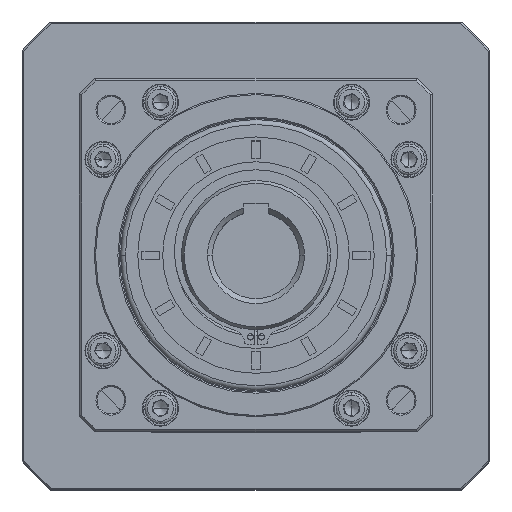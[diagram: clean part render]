
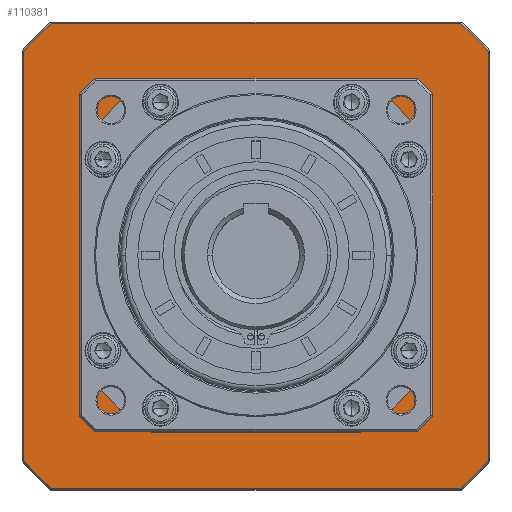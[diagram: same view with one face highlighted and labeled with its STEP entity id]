
A CAD part, top view. The second image highlights one B-rep face of the part: STEP entity #110381.
In plain terms, the highlighted planar face has unit normal (0, 0, 1).
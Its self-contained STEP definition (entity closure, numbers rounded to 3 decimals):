
#193 = CARTESIAN_POINT ( 'NONE',  ( 179.548, 121.721, -9.295 ) ) ;
#2115 = AXIS2_PLACEMENT_3D ( 'NONE', #82307, #55095, #56615 ) ;
#3781 = ORIENTED_EDGE ( 'NONE', *, *, #91855, .F. ) ;
#4524 = FACE_OUTER_BOUND ( 'NONE', #86171, .T. ) ;
#4692 = CIRCLE ( 'NONE', #45630, 124.5 ) ;
#5166 = VECTOR ( 'NONE', #100940, 1000. ) ;
#5359 = VECTOR ( 'NONE', #30723, 1000. ) ;
#5605 = DIRECTION ( 'NONE',  ( 0., -1., 0. ) ) ;
#5616 = ORIENTED_EDGE ( 'NONE', *, *, #103112, .F. ) ;
#5853 = ORIENTED_EDGE ( 'NONE', *, *, #78291, .F. ) ;
#5893 = AXIS2_PLACEMENT_3D ( 'NONE', #103623, #50423, #102828 ) ;
#6733 = CARTESIAN_POINT ( 'NONE',  ( 97.341, 215.221, -9.295 ) ) ;
#7865 = CARTESIAN_POINT ( 'NONE',  ( 179.548, 121.721, -9.295 ) ) ;
#10114 = CARTESIAN_POINT ( 'NONE',  ( 179.548, 51.221, -9.295 ) ) ;
#10225 = VECTOR ( 'NONE', #10706, 1000. ) ;
#10706 = DIRECTION ( 'NONE',  ( 0., -1., 0. ) ) ;
#11882 = VERTEX_POINT ( 'NONE', #86889 ) ;
#12193 = ORIENTED_EDGE ( 'NONE', *, *, #56513, .F. ) ;
#13235 = CARTESIAN_POINT ( 'NONE',  ( 179.548, 192.221, -9.295 ) ) ;
#13839 = VERTEX_POINT ( 'NONE', #73659 ) ;
#14469 = CARTESIAN_POINT ( 'NONE',  ( 86.048, 39.514, -9.295 ) ) ;
#14545 = CARTESIAN_POINT ( 'NONE',  ( 179.548, 121.721, -9.295 ) ) ;
#14919 = DIRECTION ( 'NONE',  ( 1., 0., 0. ) ) ;
#14957 = CARTESIAN_POINT ( 'NONE',  ( 137.67, 51.221, -9.295 ) ) ;
#16157 = ORIENTED_EDGE ( 'NONE', *, *, #90271, .F. ) ;
#16559 = AXIS2_PLACEMENT_3D ( 'NONE', #193, #69805, #26220 ) ;
#16740 = ORIENTED_EDGE ( 'NONE', *, *, #90536, .F. ) ;
#17130 = AXIS2_PLACEMENT_3D ( 'NONE', #14545, #112334, #14919 ) ;
#17419 = DIRECTION ( 'NONE',  ( -1., 0., 0. ) ) ;
#17679 = VERTEX_POINT ( 'NONE', #71664 ) ;
#18058 = CIRCLE ( 'NONE', #77883, 82. ) ;
#19342 = CARTESIAN_POINT ( 'NONE',  ( 273.048, 39.514, -9.295 ) ) ;
#21730 = LINE ( 'NONE', #10114, #27372 ) ;
#22720 = CARTESIAN_POINT ( 'NONE',  ( 179.548, 121.721, -9.295 ) ) ;
#23009 = CARTESIAN_POINT ( 'NONE',  ( 97.341, 28.221, -9.295 ) ) ;
#23233 = VECTOR ( 'NONE', #17419, 1000. ) ;
#24249 = LINE ( 'NONE', #114522, #25369 ) ;
#24636 = VERTEX_POINT ( 'NONE', #19342 ) ;
#24855 = DIRECTION ( 'NONE',  ( 1., 0., 0. ) ) ;
#25369 = VECTOR ( 'NONE', #24855, 1000. ) ;
#26220 = DIRECTION ( 'NONE',  ( -1., 0., 0. ) ) ;
#26272 = VERTEX_POINT ( 'NONE', #110487 ) ;
#27372 = VECTOR ( 'NONE', #114924, 1000. ) ;
#28105 = DIRECTION ( 'NONE',  ( 0., 0., 1. ) ) ;
#29111 = VERTEX_POINT ( 'NONE', #62173 ) ;
#29680 = ORIENTED_EDGE ( 'NONE', *, *, #71176, .F. ) ;
#30723 = DIRECTION ( 'NONE',  ( -1., 0., 0. ) ) ;
#30892 = VERTEX_POINT ( 'NONE', #65943 ) ;
#31829 = LINE ( 'NONE', #13235, #5359 ) ;
#32061 = VERTEX_POINT ( 'NONE', #6733 ) ;
#32322 = FACE_BOUND ( 'NONE', #63230, .T. ) ;
#33279 = AXIS2_PLACEMENT_3D ( 'NONE', #7865, #87545, #52582 ) ;
#34518 = DIRECTION ( 'NONE',  ( 1., 0., 0. ) ) ;
#35613 = PLANE ( 'NONE',  #16559 ) ;
#35798 = LINE ( 'NONE', #107328, #78891 ) ;
#38623 = CARTESIAN_POINT ( 'NONE',  ( 250.048, 79.844, -9.295 ) ) ;
#39279 = CIRCLE ( 'NONE', #58466, 82. ) ;
#40339 = ORIENTED_EDGE ( 'NONE', *, *, #52409, .F. ) ;
#40522 = ORIENTED_EDGE ( 'NONE', *, *, #112243, .F. ) ;
#40605 = VECTOR ( 'NONE', #5605, 1000. ) ;
#43230 = AXIS2_PLACEMENT_3D ( 'NONE', #22720, #74756, #66164 ) ;
#44586 = CIRCLE ( 'NONE', #17130, 82. ) ;
#44895 = VERTEX_POINT ( 'NONE', #94279 ) ;
#45027 = LINE ( 'NONE', #62481, #10225 ) ;
#45159 = EDGE_CURVE ( 'NONE', #11882, #49802, #46910, .T. ) ;
#45630 = AXIS2_PLACEMENT_3D ( 'NONE', #73437, #80865, #98640 ) ;
#46387 = ORIENTED_EDGE ( 'NONE', *, *, #83845, .F. ) ;
#46910 = LINE ( 'NONE', #79992, #23233 ) ;
#47662 = CARTESIAN_POINT ( 'NONE',  ( 86.048, 203.928, -9.295 ) ) ;
#49802 = VERTEX_POINT ( 'NONE', #23009 ) ;
#50273 = LINE ( 'NONE', #67456, #40605 ) ;
#50423 = DIRECTION ( 'NONE',  ( 0., 0., -1. ) ) ;
#52409 = EDGE_CURVE ( 'NONE', #32061, #17679, #24249, .T. ) ;
#52582 = DIRECTION ( 'NONE',  ( 1., 0., 0. ) ) ;
#53037 = CARTESIAN_POINT ( 'NONE',  ( 109.048, 163.599, -9.295 ) ) ;
#53121 = CIRCLE ( 'NONE', #5893, 124.5 ) ;
#54316 = VERTEX_POINT ( 'NONE', #14957 ) ;
#55095 = DIRECTION ( 'NONE',  ( 0., 0., -1. ) ) ;
#55943 = CARTESIAN_POINT ( 'NONE',  ( 250.048, 121.721, -9.295 ) ) ;
#56513 = EDGE_CURVE ( 'NONE', #96151, #32061, #91138, .T. ) ;
#56615 = DIRECTION ( 'NONE',  ( 0., 1., 0. ) ) ;
#57838 = DIRECTION ( 'NONE',  ( 0., 0., 1. ) ) ;
#58466 = AXIS2_PLACEMENT_3D ( 'NONE', #82135, #28105, #65000 ) ;
#62173 = CARTESIAN_POINT ( 'NONE',  ( 273.048, 203.928, -9.295 ) ) ;
#62481 = CARTESIAN_POINT ( 'NONE',  ( 273.048, 121.721, -9.295 ) ) ;
#62581 = CARTESIAN_POINT ( 'NONE',  ( 221.426, 192.221, -9.295 ) ) ;
#63230 = EDGE_LOOP ( 'NONE', ( #107236, #71113, #5853, #16157, #40522, #105877, #72527, #105791 ) ) ;
#65000 = DIRECTION ( 'NONE',  ( 1., 0., 0. ) ) ;
#65557 = VERTEX_POINT ( 'NONE', #53037 ) ;
#65943 = CARTESIAN_POINT ( 'NONE',  ( 109.048, 79.844, -9.295 ) ) ;
#66164 = DIRECTION ( 'NONE',  ( -1., 0., 0. ) ) ;
#67456 = CARTESIAN_POINT ( 'NONE',  ( 109.048, 121.721, -9.295 ) ) ;
#69027 = EDGE_CURVE ( 'NONE', #44895, #100906, #44586, .T. ) ;
#69805 = DIRECTION ( 'NONE',  ( 0., 0., -1. ) ) ;
#71113 = ORIENTED_EDGE ( 'NONE', *, *, #73541, .F. ) ;
#71176 = EDGE_CURVE ( 'NONE', #29111, #24636, #45027, .T. ) ;
#71664 = CARTESIAN_POINT ( 'NONE',  ( 261.755, 215.221, -9.295 ) ) ;
#72527 = ORIENTED_EDGE ( 'NONE', *, *, #77824, .F. ) ;
#73437 = CARTESIAN_POINT ( 'NONE',  ( 179.548, 121.721, -9.295 ) ) ;
#73541 = EDGE_CURVE ( 'NONE', #74116, #44895, #74718, .T. ) ;
#73659 = CARTESIAN_POINT ( 'NONE',  ( 221.426, 51.221, -9.295 ) ) ;
#74116 = VERTEX_POINT ( 'NONE', #38623 ) ;
#74718 = LINE ( 'NONE', #55943, #5166 ) ;
#74756 = DIRECTION ( 'NONE',  ( 0., 0., -1. ) ) ;
#74775 = CIRCLE ( 'NONE', #43230, 124.5 ) ;
#75337 = EDGE_CURVE ( 'NONE', #100906, #26272, #31829, .T. ) ;
#77824 = EDGE_CURVE ( 'NONE', #26272, #65557, #39279, .T. ) ;
#77883 = AXIS2_PLACEMENT_3D ( 'NONE', #104801, #57838, #34518 ) ;
#78291 = EDGE_CURVE ( 'NONE', #13839, #74116, #18058, .T. ) ;
#78891 = VECTOR ( 'NONE', #81769, 1000. ) ;
#79992 = CARTESIAN_POINT ( 'NONE',  ( 179.548, 28.221, -9.295 ) ) ;
#80865 = DIRECTION ( 'NONE',  ( 0., 0., -1. ) ) ;
#81769 = DIRECTION ( 'NONE',  ( 0., 1., 0. ) ) ;
#82135 = CARTESIAN_POINT ( 'NONE',  ( 179.548, 121.721, -9.295 ) ) ;
#82307 = CARTESIAN_POINT ( 'NONE',  ( 179.548, 121.721, -9.295 ) ) ;
#83007 = CIRCLE ( 'NONE', #33279, 82. ) ;
#83845 = EDGE_CURVE ( 'NONE', #99832, #96151, #35798, .T. ) ;
#86171 = EDGE_LOOP ( 'NONE', ( #98474, #16740, #29680, #3781, #40339, #12193, #46387, #5616 ) ) ;
#86889 = CARTESIAN_POINT ( 'NONE',  ( 261.755, 28.221, -9.295 ) ) ;
#87545 = DIRECTION ( 'NONE',  ( 0., 0., 1. ) ) ;
#90271 = EDGE_CURVE ( 'NONE', #54316, #13839, #21730, .T. ) ;
#90536 = EDGE_CURVE ( 'NONE', #24636, #11882, #74775, .T. ) ;
#91138 = CIRCLE ( 'NONE', #2115, 124.5 ) ;
#91855 = EDGE_CURVE ( 'NONE', #17679, #29111, #4692, .T. ) ;
#94279 = CARTESIAN_POINT ( 'NONE',  ( 250.048, 163.599, -9.295 ) ) ;
#96151 = VERTEX_POINT ( 'NONE', #47662 ) ;
#96316 = EDGE_CURVE ( 'NONE', #65557, #30892, #50273, .T. ) ;
#98474 = ORIENTED_EDGE ( 'NONE', *, *, #45159, .F. ) ;
#98640 = DIRECTION ( 'NONE',  ( -1., 0., 0. ) ) ;
#99832 = VERTEX_POINT ( 'NONE', #14469 ) ;
#100906 = VERTEX_POINT ( 'NONE', #62581 ) ;
#100940 = DIRECTION ( 'NONE',  ( 0., 1., 0. ) ) ;
#102828 = DIRECTION ( 'NONE',  ( -1., 0., 0. ) ) ;
#103112 = EDGE_CURVE ( 'NONE', #49802, #99832, #53121, .T. ) ;
#103623 = CARTESIAN_POINT ( 'NONE',  ( 179.548, 121.721, -9.295 ) ) ;
#104801 = CARTESIAN_POINT ( 'NONE',  ( 179.548, 121.721, -9.295 ) ) ;
#105791 = ORIENTED_EDGE ( 'NONE', *, *, #75337, .F. ) ;
#105877 = ORIENTED_EDGE ( 'NONE', *, *, #96316, .F. ) ;
#107236 = ORIENTED_EDGE ( 'NONE', *, *, #69027, .F. ) ;
#107328 = CARTESIAN_POINT ( 'NONE',  ( 86.048, 121.721, -9.295 ) ) ;
#110381 = ADVANCED_FACE ( 'NONE', ( #4524, #32322 ), #35613, .F. ) ;
#110487 = CARTESIAN_POINT ( 'NONE',  ( 137.67, 192.221, -9.295 ) ) ;
#112243 = EDGE_CURVE ( 'NONE', #30892, #54316, #83007, .T. ) ;
#112334 = DIRECTION ( 'NONE',  ( 0., 0., 1. ) ) ;
#114522 = CARTESIAN_POINT ( 'NONE',  ( 179.548, 215.221, -9.295 ) ) ;
#114924 = DIRECTION ( 'NONE',  ( 1., 0., 0. ) ) ;
